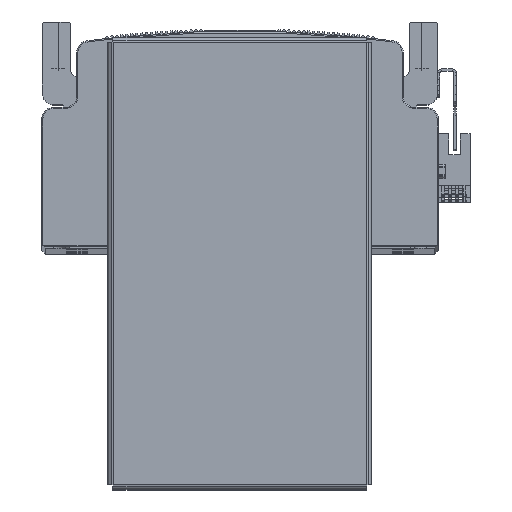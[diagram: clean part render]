
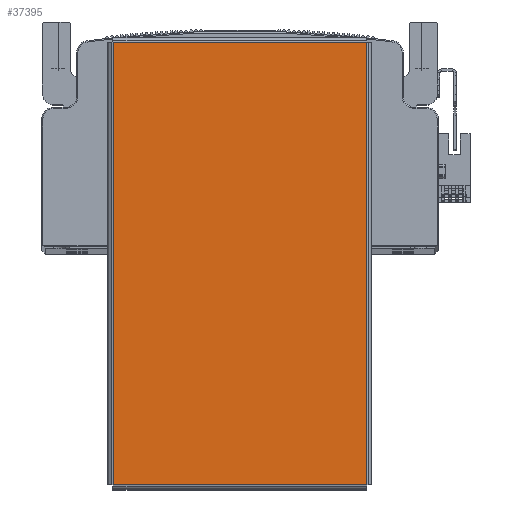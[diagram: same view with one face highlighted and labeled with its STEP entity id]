
A CAD part, top view. The second image highlights one B-rep face of the part: STEP entity #37395.
In plain terms, the highlighted planar face has unit normal (0, 0, 1) as drawn and (0, -1, 0) by its records, which use the part's own axes.
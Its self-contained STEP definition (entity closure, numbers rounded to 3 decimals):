
#2345 = FACE_OUTER_BOUND ( 'NONE', #21603, .T. ) ;
#21603 = EDGE_LOOP ( 'NONE', ( #60235, #58900, #60239, #60237 ) ) ;
#29320 = EDGE_CURVE ( 'NONE', #31349, #31269, #44033, .T. ) ;
#29333 = EDGE_CURVE ( 'NONE', #31348, #31324, #44019, .T. ) ;
#29362 = EDGE_CURVE ( 'NONE', #31324, #31349, #42873, .T. ) ;
#29364 = EDGE_CURVE ( 'NONE', #31269, #31348, #42887, .T. ) ;
#31269 = VERTEX_POINT ( 'NONE', #34192 ) ;
#31324 = VERTEX_POINT ( 'NONE', #34248 ) ;
#31348 = VERTEX_POINT ( 'NONE', #34348 ) ;
#31349 = VERTEX_POINT ( 'NONE', #34347 ) ;
#34192 = CARTESIAN_POINT ( 'NONE',  ( -94.763, -1.5, 54.363 ) ) ;
#34248 = CARTESIAN_POINT ( 'NONE',  ( 94.763, -1.5, -54.363 ) ) ;
#34347 = CARTESIAN_POINT ( 'NONE',  ( 94.763, -1.5, 54.363 ) ) ;
#34348 = CARTESIAN_POINT ( 'NONE',  ( -94.763, -1.5, -54.363 ) ) ;
#35774 = CARTESIAN_POINT ( 'NONE',  ( 94.793, -1.5, 54.363 ) ) ;
#35776 = DIRECTION ( 'NONE',  ( -1., 0., 0. ) ) ;
#35811 = CARTESIAN_POINT ( 'NONE',  ( -94.793, -1.5, -54.363 ) ) ;
#35827 = DIRECTION ( 'NONE',  ( 1., 0., 0. ) ) ;
#35900 = CARTESIAN_POINT ( 'NONE',  ( -94.763, -1.5, 54.393 ) ) ;
#35917 = DIRECTION ( 'NONE',  ( 0., 0., 1. ) ) ;
#35921 = CARTESIAN_POINT ( 'NONE',  ( 94.763, -1.5, -54.393 ) ) ;
#35925 = DIRECTION ( 'NONE',  ( 0., 0., -1. ) ) ;
#37395 = ADVANCED_FACE ( 'NONE', ( #2345 ), #64006, .F. ) ;
#42864 = VECTOR ( 'NONE', #35925, 1000. ) ;
#42873 = LINE ( 'NONE', #35921, #42884 ) ;
#42884 = VECTOR ( 'NONE', #35917, 1000. ) ;
#42887 = LINE ( 'NONE', #35900, #42864 ) ;
#44014 = VECTOR ( 'NONE', #35776, 1000. ) ;
#44019 = LINE ( 'NONE', #35811, #44026 ) ;
#44026 = VECTOR ( 'NONE', #35827, 1000. ) ;
#44033 = LINE ( 'NONE', #35774, #44014 ) ;
#58900 = ORIENTED_EDGE ( 'NONE', *, *, #29364, .T. ) ;
#59719 = AXIS2_PLACEMENT_3D ( 'NONE', #64007, #64020, #64031 ) ;
#60235 = ORIENTED_EDGE ( 'NONE', *, *, #29320, .T. ) ;
#60237 = ORIENTED_EDGE ( 'NONE', *, *, #29362, .T. ) ;
#60239 = ORIENTED_EDGE ( 'NONE', *, *, #29333, .T. ) ;
#64006 = PLANE ( 'NONE',  #59719 ) ;
#64007 = CARTESIAN_POINT ( 'NONE',  ( 0., -1.5, 0. ) ) ;
#64020 = DIRECTION ( 'NONE',  ( 0., 1., 0. ) ) ;
#64031 = DIRECTION ( 'NONE',  ( 0., 0., 1. ) ) ;
